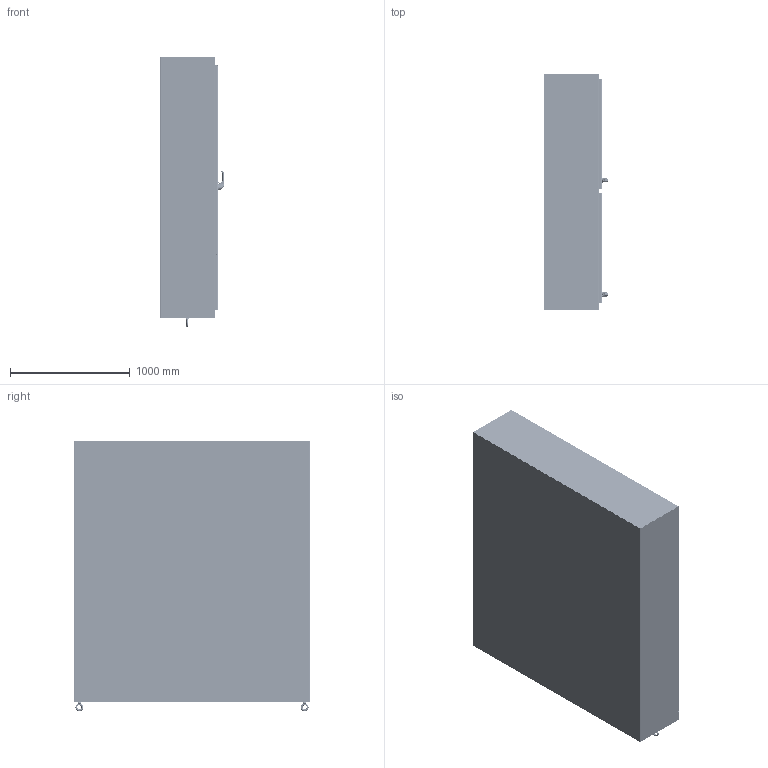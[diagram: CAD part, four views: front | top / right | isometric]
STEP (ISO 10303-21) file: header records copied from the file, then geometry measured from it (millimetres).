
FILE_DESCRIPTION((''),'2;1');
FILE_NAME('MODEL-462_ASM','2026-04-30T11:08:57',('andrew.knowlton'),('SAGINAW CONTROL & ENGINEERING'),'CREO PARAMETRIC BY PTC INC, 2021284','CREO PARAMETRIC BY PTC INC, 2021284','');
FILE_SCHEMA(('AUTOMOTIVE_DESIGN { 1 0 10303 214 1 1 1 1 }'));
Length unit declared in the file: inch
Products named in the file (123): MODEL-462-L-SD; MODEL-462-TP; MODEL-462-R-SD; MODEL-462-BTM; MODEL-462-RH-DR; 100837; 111267; 100882; 100953_SCREW_MTG; 100953_PADLOCK_CATCH; 100953_SCREW_LARGE; 100953_INSERT_SHAFT; 100953_INSERT_PCH; 100953_GASKET; 100953_O-RING; 100953_BASE; 100953_SPRING; 100953_HANDLE; 100953_CAM_SHAFT; 100953_HANDLE_ASM; 100953_CAM_ADAPTER; 100953_EARTH_NUT; 100953_FLANGE_NUT; 100953_CAM_NUT; 100953_CP_INSERT; 100953_SPRING_CAM; 100953_TORSION_SPRING; 100953_SCREW_INSERT; 100953_ASM; 102237; 100030; 102237_ASM; MODEL-462-ROD-RH-UPR; 128146; 128145; 128144; 102482; MODEL-462-ROD-RH-UPR_ASM; 128143; 112504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
Assembly tree (259 placements, depth 5):
  MODEL-462_ASM
    MODEL-462-L-SD
    MODEL-462-TP
    MODEL-462-R-SD
    MODEL-462-BTM
    MODEL-462-RH-DOOR-ASSY_ASM
      MODEL-462-RH-DR
      100837  x7
      111267
      100882  x12
      100953_ASM
        100953_SCREW_MTG
        100953_PADLOCK_CATCH
        100953_SCREW_LARGE  x2
        100953_INSERT_SHAFT
        100953_INSERT_PCH
        100953_GASKET
        100953_O-RING
        100953_BASE
        100953_SPRING
        100953_HANDLE_ASM
          100953_HANDLE
          100953_CAM_SHAFT
        100953_CAM_ADAPTER
        100953_EARTH_NUT
        100953_FLANGE_NUT
        100953_CAM_NUT
        100953_CP_INSERT
        100953_SPRING_CAM
        100953_TORSION_SPRING
        100953_SCREW_INSERT
      102237_ASM
        102237
        100030  x2
      MODEL-462-ROD-RH-UPR_ASM
        MODEL-462-ROD-RH-UPR
        128146
        128145
        128144
        102482  x2
      128143  x2
      112504  x2
      MODEL-462-ROD-RH-LWR_ASM
        MODEL-462-ROD-RH-LWR
        128146
        128145
        128144
        102482  x2
      MODEL-462-PR-GSKT-RH
      128258_ASM  x4
        128258
      126395  x4
      102483  x4
      101383_ASM  x4
        101383
        101383-STUD
      101221  x4
      125597
    MODEL-462-LH-DOOR-ASSY_ASM
      MODEL-462-LH-DR
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Bounding box: 535.27 x 1974.85 x 2259.2 mm (x, y, z)
Volume: 51135476.6 mm3; surface area: 36679406.1 mm2
Topology: 285 solids, 285 shells, 26901 faces, 68052 edges, 41764 vertices
Faces by surface type: plane 9118, cylinder 7080, bspline 5941, torus 2174, cone 1379, sphere 828, extrusion 381
Entity records: 823728 total; most frequent: CARTESIAN_POINT 373365, ORIENTED_EDGE 69616, DIRECTION 63455, PRESENTATION_STYLE_ASSIGNMENT 35618, STYLED_ITEM 35582, CURVE_STYLE 34808, EDGE_CURVE 34808, AXIS2_PLACEMENT_3D 23522
